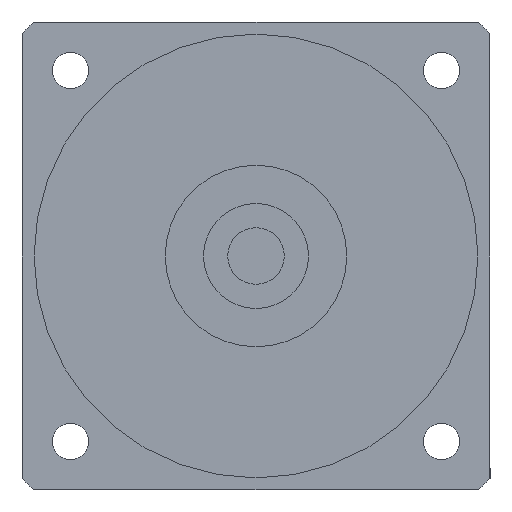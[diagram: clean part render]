
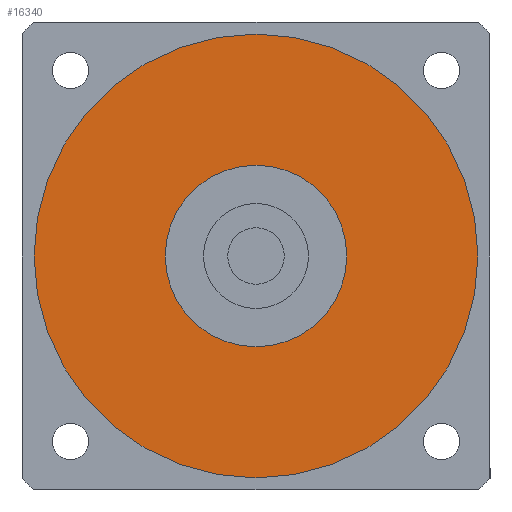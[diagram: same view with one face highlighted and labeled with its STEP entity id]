
A CAD part, left-side view. The second image highlights one B-rep face of the part: STEP entity #16340.
In plain terms, the highlighted planar face has unit normal (-1, 0, 0) as drawn and (0, 0, -1) by its records, which use the part's own axes.
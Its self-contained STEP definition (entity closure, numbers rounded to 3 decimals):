
#15730=CARTESIAN_POINT('',(0.,0.,
-113.5));
#15740=DIRECTION('',(0.,0.,1.));
#15750=DIRECTION('',(0.,-1.,0.));
#15760=AXIS2_PLACEMENT_3D('',#15730,#15740,#15750);
#15770=CIRCLE('',#15760,22.5);
#15780=CARTESIAN_POINT('',(0.,-22.5,-113.5));
#15790=VERTEX_POINT('',#15780);
#15800=CARTESIAN_POINT('',(22.5,0.,-113.5));
#15810=VERTEX_POINT('',#15800);
#15820=EDGE_CURVE('',#15790,#15810,#15770,.T.);
#15950=CARTESIAN_POINT('',(-22.5,0.,-113.5));
#15960=VERTEX_POINT('',#15950);
#15990=EDGE_CURVE('',#15960,#15790,#15770,.T.);
#16040=CARTESIAN_POINT('',(0.,0.,
-113.5));
#16050=DIRECTION('',(0.,0.,1.));
#16060=DIRECTION('',(-1.,0.,0.));
#16070=AXIS2_PLACEMENT_3D('',#16040,#16050,#16060);
#16080=PLANE('',#16070);
#16090=CARTESIAN_POINT('',(0.,0.,
-113.5));
#16100=DIRECTION('',(0.,0.,1.));
#16110=DIRECTION('',(0.,-1.,0.));
#16120=AXIS2_PLACEMENT_3D('',#16090,#16100,#16110);
#16130=CIRCLE('',#16120,55.);
#16140=CARTESIAN_POINT('',(0.,-55.,-113.5));
#16150=VERTEX_POINT('',#16140);
#16160=CARTESIAN_POINT('',(55.,0.,-113.5));
#16170=VERTEX_POINT('',#16160);
#16180=EDGE_CURVE('',#16150,#16170,#16130,.T.);
#16190=ORIENTED_EDGE('',*,*,#16180,.F.);
#16200=CARTESIAN_POINT('',(-55.,0.,-113.5));
#16210=VERTEX_POINT('',#16200);
#16220=EDGE_CURVE('',#16170,#16210,#16130,.T.);
#16230=ORIENTED_EDGE('',*,*,#16220,.F.);
#16240=EDGE_CURVE('',#16210,#16150,#16130,.T.);
#16250=ORIENTED_EDGE('',*,*,#16240,.F.);
#16260=EDGE_LOOP('',(#16250,#16230,#16190));
#16270=FACE_OUTER_BOUND('',#16260,.T.);
#16280=EDGE_CURVE('',#15810,#15960,#15770,.T.);
#16290=ORIENTED_EDGE('',*,*,#16280,.T.);
#16300=ORIENTED_EDGE('',*,*,#15820,.T.);
#16310=ORIENTED_EDGE('',*,*,#15990,.T.);
#16320=EDGE_LOOP('',(#16310,#16300,#16290));
#16330=FACE_BOUND('',#16320,.T.);
#16340=ADVANCED_FACE('',(#16270,#16330),#16080,.F.);
